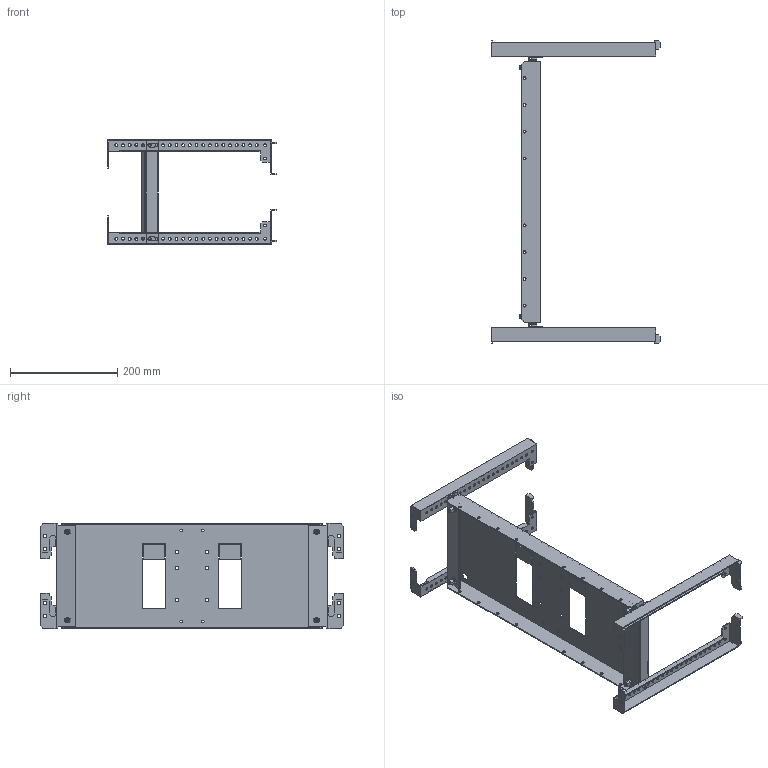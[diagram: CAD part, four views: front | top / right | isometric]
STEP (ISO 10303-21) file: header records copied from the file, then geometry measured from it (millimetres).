
FILE_DESCRIPTION (( 'STEP AP214' ), '1' );
FILE_NAME ('FO-00-ADVT-020-060 Êîìïëåêò ãîðèçîíòàëüíîé óñòàíîâêè ARMAT MCCB òèïîðàçìåð AIID âòû÷íîãî èñïîëíåíèÿ 3II4P 200õ600 ìì.STEP', '2025-07-16T07:19:15', ( '' ), ( '' ), 'SwSTEP 2.0', 'SolidWorks 2023', '' );
FILE_SCHEMA (( 'AUTOMOTIVE_DESIGN' ));
Length unit declared in the file: millimetre
Products named in the file (5): Траверса горизонтальная; Винты DIN 912 4xM6x20; FO-00-ADVT-020-060 Комплект горизонтальной установки ARMAT MCCB типоразмер AIID втычного исполнения 3II4P 200х600 мм; Панель монтажная; Траверса горизонтальнаяD
Assembly tree (6 placements, depth 2):
  FO-00-ADVT-020-060 Комплект горизонтальной установки ARMAT MCCB типоразмер AIID втычного исполнения 3II4P 200х600 мм
    Панель монтажная
    Траверса горизонтальная  x2
    Траверса горизонтальнаяD  x2
    Винты DIN 912 4xM6x20
Bounding box: 314.5 x 565.63 x 197 mm (x, y, z)
Volume: 489635.9 mm3; surface area: 507343.5 mm2
Topology: 9 solids, 13 shells, 1050 faces, 2860 edges, 1884 vertices
Faces by surface type: plane 490, cylinder 472, cone 56, torus 32
Entity records: 27419 total; most frequent: CARTESIAN_POINT 5619, DIRECTION 4596, ORIENTED_EDGE 4388, EDGE_CURVE 2194, AXIS2_PLACEMENT_3D 1649, VERTEX_POINT 1440, LINE 1298, VECTOR 1298
